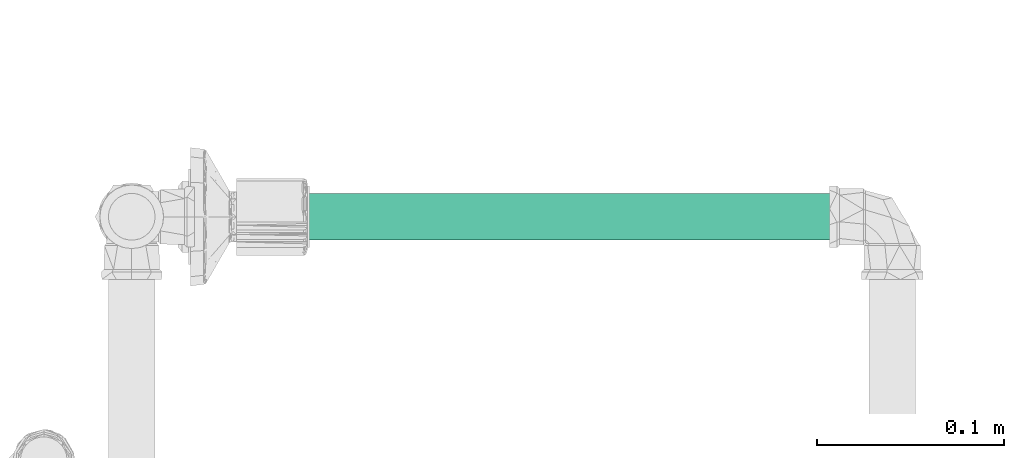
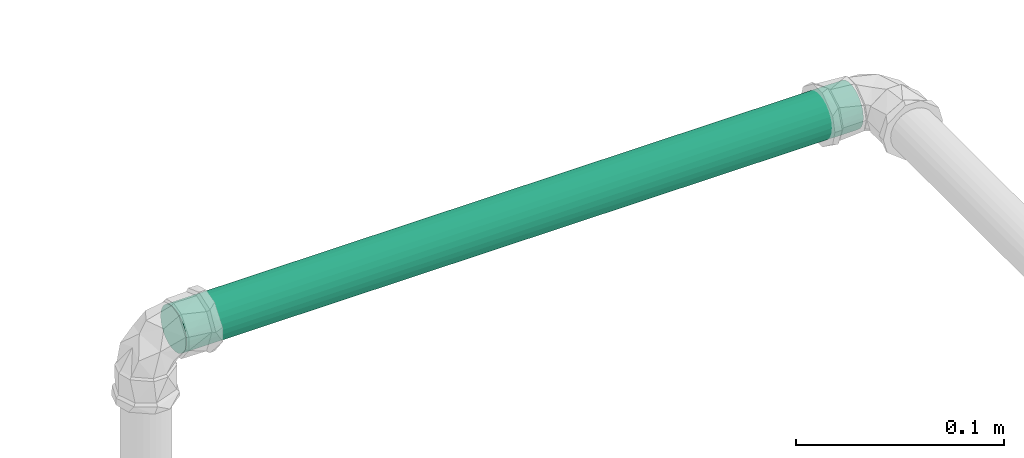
# One storey, part 106 of 589: 1 flow segment.
"""IFC2X3 building model written with IfcOpenShell, lengths in millimetres."""

from ifc_helpers import new_model, entity, si_unit, converted_unit, derived_unit, direction, frame, frame_2d, origin, place, context, subcontext, project, spatial, circle, extrude, type_object, element, save


model = new_model("IFC2X3")

# Units and contexts
model_context = context("Model", 3, precision=0.01, world=origin(), true_north=direction((6.123031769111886e-17, 1.0)))
body_context = subcontext(model_context, "Body", "Model", "MODEL_VIEW")
ifc_project = project(units=[si_unit("LENGTHUNIT", "METRE", prefix="MILLI"), si_unit("AREAUNIT", "SQUARE_METRE"), si_unit("VOLUMEUNIT", "CUBIC_METRE"), converted_unit("PLANEANGLEUNIT", "DEGREE", entity("IfcRatioMeasure", 0.017453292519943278), si_unit("PLANEANGLEUNIT", "RADIAN"), dimensions=[0, 0, 0, 0, 0, 0, 0]), si_unit("MASSUNIT", "GRAM", prefix="KILO"), derived_unit("MASSDENSITYUNIT", [(si_unit("MASSUNIT", "GRAM", prefix="KILO"), 1), (si_unit("LENGTHUNIT", "METRE"), -3)]), derived_unit("IONCONCENTRATIONUNIT", [(si_unit("MASSUNIT", "GRAM", prefix="KILO"), 1), (si_unit("LENGTHUNIT", "METRE"), -3)]), derived_unit("MOMENTOFINERTIAUNIT", [(si_unit("LENGTHUNIT", "METRE"), 4)]), si_unit("TIMEUNIT", "SECOND"), si_unit("FREQUENCYUNIT", "HERTZ"), si_unit("THERMODYNAMICTEMPERATUREUNIT", "DEGREE_CELSIUS"), derived_unit("THERMALTRANSMITTANCEUNIT", [(si_unit("MASSUNIT", "GRAM", prefix="KILO"), 1), (si_unit("THERMODYNAMICTEMPERATUREUNIT", "KELVIN"), -1), (si_unit("TIMEUNIT", "SECOND"), -3)]), derived_unit("THERMALCONDUCTANCEUNIT", [(si_unit("MASSUNIT", "GRAM", prefix="KILO"), 1), (si_unit("THERMODYNAMICTEMPERATUREUNIT", "KELVIN"), -1), (si_unit("TIMEUNIT", "SECOND"), -3), (si_unit("LENGTHUNIT", "METRE"), 1)]), derived_unit("VOLUMETRICFLOWRATEUNIT", [(si_unit("LENGTHUNIT", "METRE"), 3), (si_unit("TIMEUNIT", "SECOND"), -1)]), derived_unit("MASSFLOWRATEUNIT", [(si_unit("MASSUNIT", "GRAM", prefix="KILO"), 1), (si_unit("TIMEUNIT", "SECOND"), -1)]), derived_unit("ROTATIONALFREQUENCYUNIT", [(si_unit("TIMEUNIT", "SECOND"), -1)]), si_unit("ELECTRICCURRENTUNIT", "AMPERE"), si_unit("ELECTRICVOLTAGEUNIT", "VOLT"), si_unit("POWERUNIT", "WATT"), si_unit("FORCEUNIT", "NEWTON", prefix="KILO"), si_unit("ILLUMINANCEUNIT", "LUX"), si_unit("LUMINOUSFLUXUNIT", "LUMEN"), si_unit("LUMINOUSINTENSITYUNIT", "CANDELA"), derived_unit("USERDEFINED", [(si_unit("MASSUNIT", "GRAM", prefix="KILO"), -1), (si_unit("LENGTHUNIT", "METRE"), -2), (si_unit("TIMEUNIT", "SECOND"), 3), (si_unit("LUMINOUSFLUXUNIT", "LUMEN"), 1)]), derived_unit("USERDEFINED", [(si_unit("MASSUNIT", "GRAM", prefix="KILO"), 1), (si_unit("TIMEUNIT", "SECOND"), -3), (si_unit("LENGTHUNIT", "METRE"), 3), (si_unit("ELECTRICCURRENTUNIT", "AMPERE"), -2)]), derived_unit("SOUNDPOWERUNIT", [(si_unit("MASSUNIT", "GRAM", prefix="KILO"), 1), (si_unit("TIMEUNIT", "SECOND"), -3), (si_unit("LENGTHUNIT", "METRE"), 2)]), derived_unit("SOUNDPRESSUREUNIT", [(si_unit("MASSUNIT", "GRAM", prefix="KILO"), 1), (si_unit("LENGTHUNIT", "METRE"), -1), (si_unit("TIMEUNIT", "SECOND"), -2)]), derived_unit("LINEARVELOCITYUNIT", [(si_unit("LENGTHUNIT", "METRE"), 1), (si_unit("TIMEUNIT", "SECOND"), -1)]), si_unit("PRESSUREUNIT", "PASCAL"), derived_unit("USERDEFINED", [(si_unit("MASSUNIT", "GRAM", prefix="KILO"), 1), (si_unit("LENGTHUNIT", "METRE"), -2), (si_unit("TIMEUNIT", "SECOND"), -2)]), derived_unit("LINEARFORCEUNIT", [(si_unit("MASSUNIT", "GRAM", prefix="KILO"), 1), (si_unit("TIMEUNIT", "SECOND"), -2)]), derived_unit("PLANARFORCEUNIT", [(si_unit("MASSUNIT", "GRAM", prefix="KILO"), 1), (si_unit("LENGTHUNIT", "METRE"), -1), (si_unit("TIMEUNIT", "SECOND"), -2)]), derived_unit("SPECIFICHEATCAPACITYUNIT", [(si_unit("THERMODYNAMICTEMPERATUREUNIT", "KELVIN"), -1), (si_unit("LENGTHUNIT", "METRE"), 2), (si_unit("TIMEUNIT", "SECOND"), -2)]), derived_unit("HEATINGVALUEUNIT", [(si_unit("LENGTHUNIT", "METRE"), 2), (si_unit("TIMEUNIT", "SECOND"), -2)]), derived_unit("VAPORPERMEABILITYUNIT", [(si_unit("LENGTHUNIT", "METRE"), -1), (si_unit("TIMEUNIT", "SECOND"), 1)]), derived_unit("DYNAMICVISCOSITYUNIT", [(si_unit("MASSUNIT", "GRAM", prefix="KILO"), 1), (si_unit("TIMEUNIT", "SECOND"), -1), (si_unit("LENGTHUNIT", "METRE"), -1)]), derived_unit("THERMALEXPANSIONCOEFFICIENTUNIT", [(si_unit("THERMODYNAMICTEMPERATUREUNIT", "KELVIN"), -1)]), derived_unit("MODULUSOFELASTICITYUNIT", [(si_unit("MASSUNIT", "GRAM", prefix="KILO"), 1), (si_unit("LENGTHUNIT", "METRE"), -1), (si_unit("TIMEUNIT", "SECOND"), -2)]), derived_unit("ISOTHERMALMOISTURECAPACITYUNIT", [(si_unit("LENGTHUNIT", "METRE"), 3), (si_unit("MASSUNIT", "GRAM", prefix="KILO"), -1)]), derived_unit("MOISTUREDIFFUSIVITYUNIT", [(si_unit("TIMEUNIT", "SECOND"), -1), (si_unit("LENGTHUNIT", "METRE"), 2)])], contexts=[model_context])

# Site, building, storey
site_placement = place(None, origin())
site = spatial("IfcSite", under=ifc_project, at=site_placement, Name="Default", CompositionType="ELEMENT")
building_placement = place(site_placement, origin())
building = spatial("IfcBuilding", under=site, at=building_placement, CompositionType="ELEMENT")
storey_placement = place(building_placement, frame((0.0, 0.0, 100.0)))
storey = spatial("IfcBuildingStorey", under=building, at=storey_placement, Name="TÉRREO", CompositionType="ELEMENT", Elevation=100.0)

# Flow segment
pipe_segment_type = type_object("IfcPipeSegmentType", Name="Tipos de tubos:PVC Marrom Soldável", PredefinedType="NOTDEFINED")
flow_segment_placement = place(storey_placement, origin())
element("IfcFlowSegment", 1, at=flow_segment_placement, inside=storey, type_object=pipe_segment_type, Name="Tipos de tubos:PVC Marrom Soldável", ObjectType="Tipos de tubos:PVC Marrom Soldável", context=body_context, shape_type="SweptSolid", body=[
    extrude(circle(Radius=12.5, at=frame_2d((0.0, -5.414335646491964e-13), x_axis=(1.0, 0.0))), frame((447.24239219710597, -5595.395968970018, 2970.0), z_axis=(1.0, 0.0, 0.0), x_axis=(0.0, -1.0, 0.0)), (0.0, 0.0, 1.0), 375.4539491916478),
])

save(model, "model.ifc")
